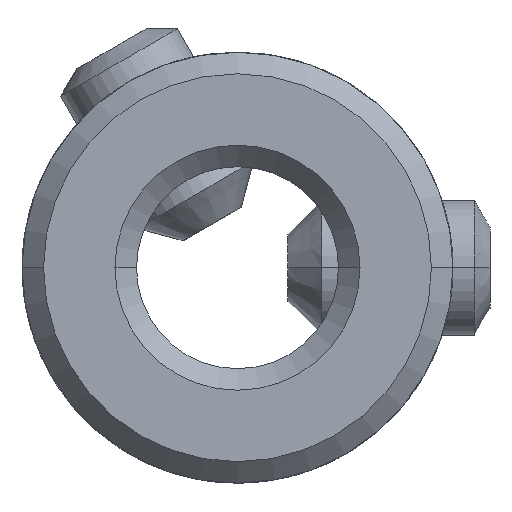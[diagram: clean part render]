
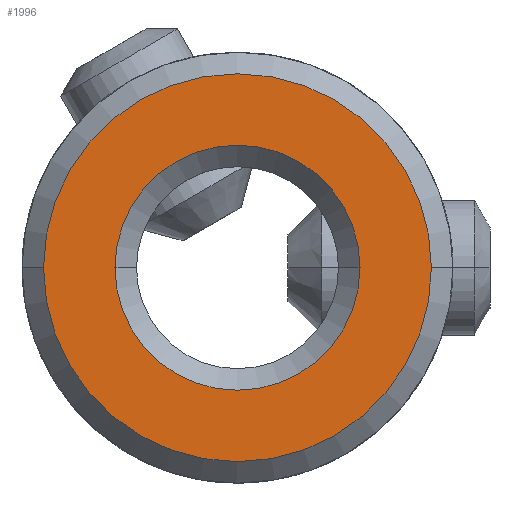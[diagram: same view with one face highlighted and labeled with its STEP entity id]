
A CAD part, front view. The second image highlights one B-rep face of the part: STEP entity #1996.
In plain terms, the highlighted planar face has unit normal (0, -1, 0).
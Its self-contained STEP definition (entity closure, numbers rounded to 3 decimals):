
#2=CARTESIAN_POINT('',(0.,-6.35,0.));
#3=DIRECTION('',(0.,-1.,0.));
#4=DIRECTION('',(1.,0.,0.));
#5=AXIS2_PLACEMENT_3D('',#2,#3,#4);
#7=CARTESIAN_POINT('',(0.,-6.35,0.));
#8=DIRECTION('',(0.,-1.,0.));
#9=DIRECTION('',(-1.,0.,0.));
#10=AXIS2_PLACEMENT_3D('',#7,#8,#9);
#12=CARTESIAN_POINT('',(0.,-6.35,0.));
#13=DIRECTION('',(0.,1.,0.));
#14=DIRECTION('',(1.,0.,0.));
#15=AXIS2_PLACEMENT_3D('',#12,#13,#14);
#17=CARTESIAN_POINT('',(0.,-6.35,0.));
#18=DIRECTION('',(0.,1.,0.));
#19=DIRECTION('',(-1.,0.,0.));
#20=AXIS2_PLACEMENT_3D('',#17,#18,#19);
#1835=CARTESIAN_POINT('',(1.82,-6.35,0.));
#1836=CARTESIAN_POINT('',(-1.82,-6.35,0.));
#1837=VERTEX_POINT('',#1835);
#1838=VERTEX_POINT('',#1836);
#1851=CARTESIAN_POINT('',(2.88,-6.35,0.));
#1852=CARTESIAN_POINT('',(-2.88,-6.35,0.));
#1853=VERTEX_POINT('',#1851);
#1854=VERTEX_POINT('',#1852);
#1979=CARTESIAN_POINT('',(0.,-6.35,0.));
#1980=DIRECTION('',(0.,1.,0.));
#1981=DIRECTION('',(1.,0.,0.));
#1982=AXIS2_PLACEMENT_3D('',#1979,#1980,#1981);
#1983=PLANE('',#1982);
#1985=ORIENTED_EDGE('',*,*,#1984,.F.);
#1987=ORIENTED_EDGE('',*,*,#1986,.F.);
#1988=EDGE_LOOP('',(#1985,#1987));
#1989=FACE_OUTER_BOUND('',#1988,.F.);
#1991=ORIENTED_EDGE('',*,*,#1990,.F.);
#1993=ORIENTED_EDGE('',*,*,#1992,.F.);
#1994=EDGE_LOOP('',(#1991,#1993));
#1995=FACE_BOUND('',#1994,.F.);
#1996=ADVANCED_FACE('',(#1989,#1995),#1983,.F.);
#6=CIRCLE('',#5,2.88);
#11=CIRCLE('',#10,2.88);
#16=CIRCLE('',#15,1.82);
#21=CIRCLE('',#20,1.82);
#1984=EDGE_CURVE('',#1853,#1854,#6,.T.);
#1986=EDGE_CURVE('',#1854,#1853,#11,.T.);
#1990=EDGE_CURVE('',#1837,#1838,#16,.T.);
#1992=EDGE_CURVE('',#1838,#1837,#21,.T.);
